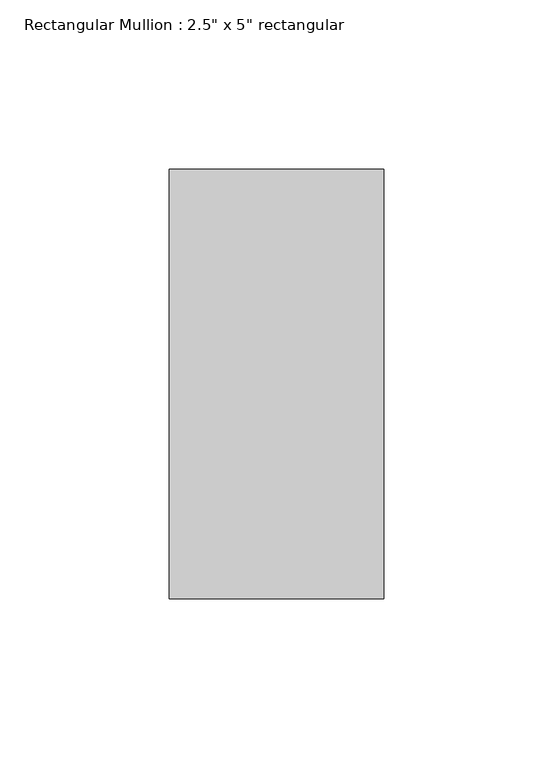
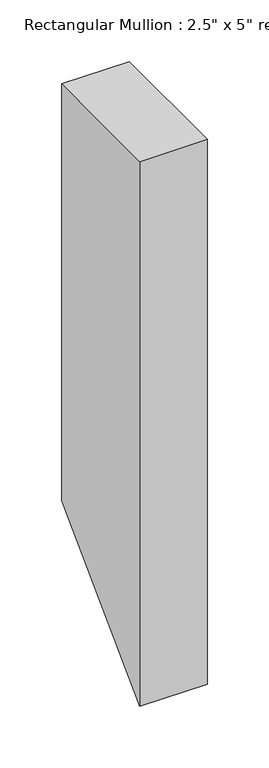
"""IFC4 building model written with IfcOpenShell, lengths in millimetres: member geometry."""

from ifc_helpers import new_model, si_unit, frame, origin, place, context, project, spatial, polyline, outline, extrude, source, transform, mapped, element, save


def member_8b9a92bc(model_context):
    return source(origin(), model_context, "Body", "SweptSolid", [
        extrude(outline(polyline([(-76.2, 0.0), (50.8, 0.0), (50.8, -413.8083333), (-76.2, -540.8083333), (-76.2, 0.0)])), frame((-63.5, 0.0, 0.0), z_axis=(1.0, 0.0, 0.0), x_axis=(0.0, 1.0, 0.0)), (0.0, 0.0, 1.0), 63.5),
    ])


if __name__ == "__main__":
    model = new_model("IFC4")
    model_context = context("Model", 3, world=origin())
    ifc_project = project(units=[si_unit("LENGTHUNIT", "METRE", prefix="MILLI")], contexts=[model_context])
    site = spatial("IfcSite", under=ifc_project)
    building = spatial("IfcBuilding", under=site)
    placement = place(None, origin())
    member_shape = member_8b9a92bc(model_context)
    element("IfcMember", 1, ObjectType="Rectangular Mullion : 2.5\" x 5\" rectangular", at=placement, inside=building, context=model_context, shape_type="MappedRepresentation", body=[
        mapped(member_shape, transform((0.0, 0.0, 0.0), x_axis=(1.0, 0.0, 0.0), y_axis=(0.0, 1.0, 0.0), z_axis=(0.0, 0.0, 1.0))),
    ])
    save(model, "model.ifc")
